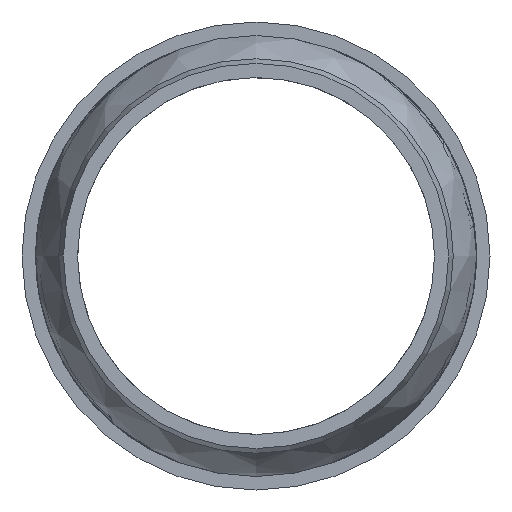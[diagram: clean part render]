
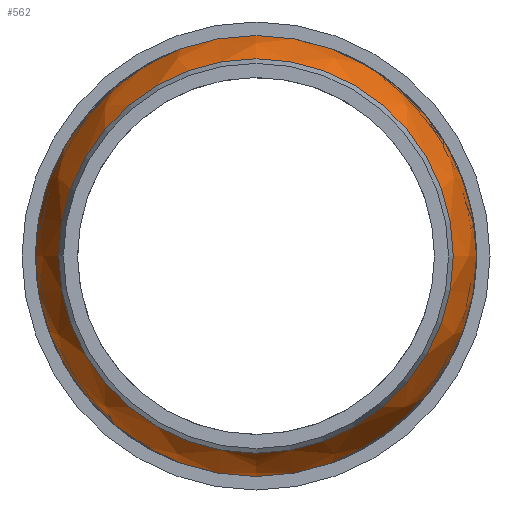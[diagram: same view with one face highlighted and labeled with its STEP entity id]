
A CAD part, left-side view. The second image highlights one B-rep face of the part: STEP entity #562.
In plain terms, the highlighted free-form (B-spline) face has degree [2, 2] with [3, 9] control points.
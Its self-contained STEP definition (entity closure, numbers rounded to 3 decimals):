
#11=(
BOUNDED_CURVE()
B_SPLINE_CURVE(2,(#2117,#2118,#2119),.UNSPECIFIED.,.F.,.F.)
B_SPLINE_CURVE_WITH_KNOTS((3,3),(0.109,0.66),
 .UNSPECIFIED.)
CURVE()
GEOMETRIC_REPRESENTATION_ITEM()
RATIONAL_B_SPLINE_CURVE((1.,0.962,1.))
REPRESENTATION_ITEM('')
);
#12=(
BOUNDED_SURFACE()
B_SPLINE_SURFACE(2,2,((#2090,#2091,#2092,#2093,#2094,#2095,#2096,#2097,
#2098),(#2099,#2100,#2101,#2102,#2103,#2104,#2105,#2106,#2107),(#2108,#2109,
#2110,#2111,#2112,#2113,#2114,#2115,#2116)),.UNSPECIFIED.,.F.,.T.,.F.)
B_SPLINE_SURFACE_WITH_KNOTS((3,3),(3,2,2,2,3),(-0.66,-0.109),
(-3.142,-1.571,0.,1.571,3.142),
 .UNSPECIFIED.)
GEOMETRIC_REPRESENTATION_ITEM()
RATIONAL_B_SPLINE_SURFACE(((1.,0.707,1.,0.707,1.,
0.707,1.,0.707,1.),(0.962,0.68,
0.962,0.68,0.962,0.68,0.962,
0.68,0.962),(1.,0.707,1.,0.707,
1.,0.707,1.,0.707,1.)))
REPRESENTATION_ITEM('')
SURFACE()
);
#147=FACE_OUTER_BOUND('',#207,.T.);
#207=EDGE_LOOP('',(#468,#469,#470,#471,#472,#473,#474));
#233=CIRCLE('',#603,50.4);
#234=CIRCLE('',#604,50.4);
#235=CIRCLE('',#605,50.4);
#241=CIRCLE('',#624,45.1);
#242=CIRCLE('',#625,45.1);
#275=VERTEX_POINT('',#1401);
#284=VERTEX_POINT('',#1813);
#285=VERTEX_POINT('',#1814);
#296=VERTEX_POINT('',#2086);
#297=VERTEX_POINT('',#2087);
#343=EDGE_CURVE('',#284,#285,#233,.T.);
#344=EDGE_CURVE('',#285,#275,#234,.T.);
#345=EDGE_CURVE('',#275,#284,#235,.T.);
#357=EDGE_CURVE('',#296,#297,#241,.T.);
#358=EDGE_CURVE('',#297,#296,#242,.T.);
#359=EDGE_CURVE('',#285,#297,#11,.T.);
#468=ORIENTED_EDGE('',*,*,#343,.F.);
#469=ORIENTED_EDGE('',*,*,#345,.F.);
#470=ORIENTED_EDGE('',*,*,#344,.F.);
#471=ORIENTED_EDGE('',*,*,#359,.T.);
#472=ORIENTED_EDGE('',*,*,#358,.T.);
#473=ORIENTED_EDGE('',*,*,#357,.T.);
#474=ORIENTED_EDGE('',*,*,#359,.F.);
#562=ADVANCED_FACE('',(#147),#12,.F.);
#603=AXIS2_PLACEMENT_3D('',#1815,#697,#698);
#604=AXIS2_PLACEMENT_3D('',#1816,#699,#700);
#605=AXIS2_PLACEMENT_3D('',#1817,#701,#702);
#624=AXIS2_PLACEMENT_3D('',#2088,#739,#740);
#625=AXIS2_PLACEMENT_3D('',#2089,#741,#742);
#697=DIRECTION('center_axis',(1.,0.,0.));
#698=DIRECTION('ref_axis',(0.,0.,
1.));
#699=DIRECTION('center_axis',(1.,0.,0.));
#700=DIRECTION('ref_axis',(0.,0.,
1.));
#701=DIRECTION('center_axis',(1.,0.,0.));
#702=DIRECTION('ref_axis',(0.,0.,
1.));
#739=DIRECTION('center_axis',(1.,0.,0.));
#740=DIRECTION('ref_axis',(0.,0.,
1.));
#741=DIRECTION('center_axis',(1.,0.,0.));
#742=DIRECTION('ref_axis',(0.,0.,
1.));
#1401=CARTESIAN_POINT('',(509.4,50.4,0.));
#1813=CARTESIAN_POINT('',(509.4,-50.4,0.));
#1814=CARTESIAN_POINT('',(509.4,0.,-50.4));
#1815=CARTESIAN_POINT('Origin',(509.4,0.,
0.));
#1816=CARTESIAN_POINT('Origin',(509.4,0.,
0.));
#1817=CARTESIAN_POINT('Origin',(509.4,0.,
0.));
#2086=CARTESIAN_POINT('',(496.3,-45.1,0.));
#2087=CARTESIAN_POINT('',(496.3,0.,-45.1));
#2088=CARTESIAN_POINT('Origin',(496.3,0.,
0.));
#2089=CARTESIAN_POINT('Origin',(496.3,0.,
0.));
#2090=CARTESIAN_POINT('Ctrl Pts',(496.3,0.,
-45.1));
#2091=CARTESIAN_POINT('Ctrl Pts',(496.3,45.1,-45.1));
#2092=CARTESIAN_POINT('Ctrl Pts',(496.3,45.1,0.));
#2093=CARTESIAN_POINT('Ctrl Pts',(496.3,45.1,45.1));
#2094=CARTESIAN_POINT('Ctrl Pts',(496.3,0.,
45.1));
#2095=CARTESIAN_POINT('Ctrl Pts',(496.3,-45.1,45.1));
#2096=CARTESIAN_POINT('Ctrl Pts',(496.3,-45.1,0.));
#2097=CARTESIAN_POINT('Ctrl Pts',(496.3,-45.1,-45.1));
#2098=CARTESIAN_POINT('Ctrl Pts',(496.3,0.,
-45.1));
#2099=CARTESIAN_POINT('Ctrl Pts',(502.102,0.,
-49.6));
#2100=CARTESIAN_POINT('Ctrl Pts',(502.102,49.6,-49.6));
#2101=CARTESIAN_POINT('Ctrl Pts',(502.102,49.6,0.));
#2102=CARTESIAN_POINT('Ctrl Pts',(502.102,49.6,49.6));
#2103=CARTESIAN_POINT('Ctrl Pts',(502.102,0.,
49.6));
#2104=CARTESIAN_POINT('Ctrl Pts',(502.102,-49.6,49.6));
#2105=CARTESIAN_POINT('Ctrl Pts',(502.102,-49.6,0.));
#2106=CARTESIAN_POINT('Ctrl Pts',(502.102,-49.6,-49.6));
#2107=CARTESIAN_POINT('Ctrl Pts',(502.102,0.,
-49.6));
#2108=CARTESIAN_POINT('Ctrl Pts',(509.4,0.,
-50.4));
#2109=CARTESIAN_POINT('Ctrl Pts',(509.4,50.4,-50.4));
#2110=CARTESIAN_POINT('Ctrl Pts',(509.4,50.4,0.));
#2111=CARTESIAN_POINT('Ctrl Pts',(509.4,50.4,50.4));
#2112=CARTESIAN_POINT('Ctrl Pts',(509.4,0.,
50.4));
#2113=CARTESIAN_POINT('Ctrl Pts',(509.4,-50.4,50.4));
#2114=CARTESIAN_POINT('Ctrl Pts',(509.4,-50.4,0.));
#2115=CARTESIAN_POINT('Ctrl Pts',(509.4,-50.4,-50.4));
#2116=CARTESIAN_POINT('Ctrl Pts',(509.4,0.,
-50.4));
#2117=CARTESIAN_POINT('Ctrl Pts',(509.4,0.,
-50.4));
#2118=CARTESIAN_POINT('Ctrl Pts',(502.102,0.,
-49.6));
#2119=CARTESIAN_POINT('Ctrl Pts',(496.3,0.,
-45.1));
